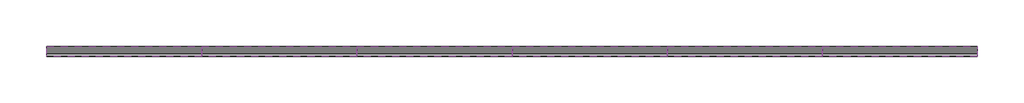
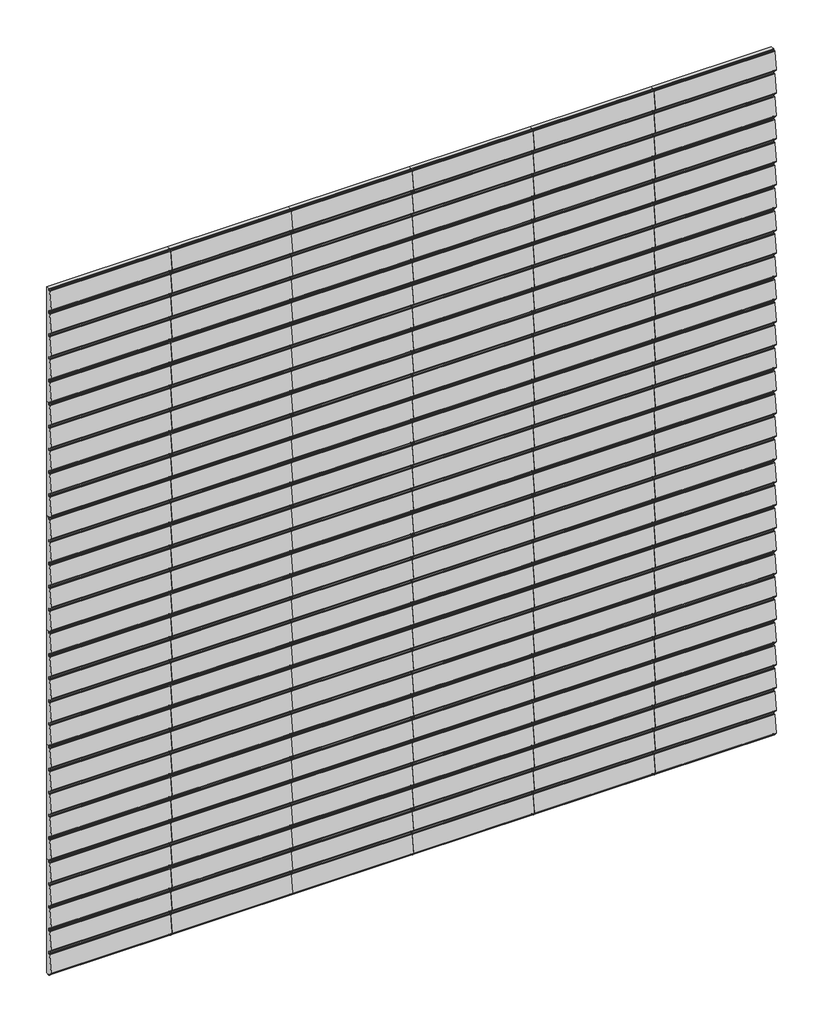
# One storey: 36 proxies.
"""IFC4 building model written with IfcOpenShell, lengths in millimetres."""

import ifcopenshell
import ifcopenshell.guid

model = None  # the IFC model being written
_history = None  # IfcOwnerHistory: only IFC2X3 demands one
_inside = {}  # id of a spatial element -> (the spatial element, [elements in it])
_under = {}  # id of a project, library or spatial element -> (it, [spatial elements below it])
_declared = {}  # id of a project -> (the project, [libraries it declares])
_typed = {}  # id of a type object -> (the type object, [elements of that type])
_made_of = {}  # id of a material, layer set ... -> (it, [elements and type objects made of it])


def new_model(schema):
    """Start an empty IFC model of exactly this schema.

    Asked for "IFC4X3", IfcOpenShell would pick the latest addendum, in which some entities
    have other attributes; the version numbers below select the first issue.
    IFC2X3 requires an IfcOwnerHistory on every rooted entity: one is made here for all.
    """
    global model, _history
    if schema == "IFC4X3":
        model = ifcopenshell.file(schema_version=(4, 3, 0, 0))
    else:
        model = ifcopenshell.file(schema=schema)
    _inside.clear()
    _under.clear()
    _declared.clear()
    _typed.clear()
    _made_of.clear()
    _history = None
    if model.schema == "IFC2X3":
        org = make("IfcOrganization", Name="unknown")
        user = make(
            "IfcPersonAndOrganization",
            ThePerson=make("IfcPerson", FamilyName="unknown"),
            TheOrganization=org,
        )
        app = make(
            "IfcApplication",
            ApplicationDeveloper=org,
            Version="unknown",
            ApplicationFullName="unknown",
            ApplicationIdentifier="unknown",
        )
        _history = make(
            "IfcOwnerHistory",
            OwningUser=user,
            OwningApplication=app,
            ChangeAction="ADDED",
            CreationDate=0,
        )
    return model


def make(cls, **values):
    """One entity of the class cls with the attributes given. An attribute that is None is left unset."""
    return model.create_entity(
        cls, **{name: value for name, value in values.items() if value is not None}
    )


def rooted(cls, **values):
    """An entity with a GlobalId (a new one), such as an element, a storey or a relation."""
    return make(cls, GlobalId=ifcopenshell.guid.new(), OwnerHistory=_history, **values)


def si_unit(unit_type, name, prefix=None):
    """IfcSIUnit, for example si_unit("LENGTHUNIT", "METRE", prefix="MILLI")."""
    return make("IfcSIUnit", UnitType=unit_type, Prefix=prefix, Name=name)


def assignment(units):
    """IfcUnitAssignment: the units of a project."""
    return None if units is None else make("IfcUnitAssignment", Units=units)


def point(xyz):
    """IfcCartesianPoint."""
    return None if xyz is None else make("IfcCartesianPoint", Coordinates=xyz)


def direction(xyz):
    """IfcDirection."""
    return None if xyz is None else make("IfcDirection", DirectionRatios=xyz)


def frame(location, z_axis=None, x_axis=None):
    """IfcAxis2Placement3D, a coordinate frame: its origin and axes. An axis left out is left unset."""
    return make(
        "IfcAxis2Placement3D",
        Location=point(location),
        Axis=direction(z_axis),
        RefDirection=direction(x_axis),
    )


def frame_2d(location, x_axis=None):
    """IfcAxis2Placement2D, a coordinate frame in the plane: its origin and x axis."""
    return make(
        "IfcAxis2Placement2D", Location=point(location), RefDirection=direction(x_axis)
    )


def origin():
    """The frame at (0, 0, 0) with its axes left unset."""
    return frame((0.0, 0.0, 0.0))


def place(relative_to, where):
    """IfcLocalPlacement: puts the frame where relative to a parent placement (None: the world)."""
    return make(
        "IfcLocalPlacement", PlacementRelTo=relative_to, RelativePlacement=where
    )


def context(
    kind, dimensions, precision=None, world=None, true_north=None, identifier=None
):
    """IfcGeometricRepresentationContext, for example the 3D "Model" context."""
    return make(
        "IfcGeometricRepresentationContext",
        ContextIdentifier=identifier,
        ContextType=kind,
        CoordinateSpaceDimension=dimensions,
        Precision=precision,
        WorldCoordinateSystem=world,
        TrueNorth=true_north,
    )


def project(units=None, contexts=None):
    """IfcProject with its units and contexts."""
    return rooted(
        "IfcProject",
        Name="project",
        RepresentationContexts=contexts,
        UnitsInContext=assignment(units),
    )


def spatial(cls, under=None, at=None, **own):
    """A site, building, storey or space (cls), placed at a placement, below another one or the project."""
    s = rooted(cls, ObjectPlacement=at, **own)
    if under is not None:
        _under.setdefault(under.id(), (under, []))[1].append(s)
    return s


def polyline(points):
    """IfcPolyline through the points."""
    return make("IfcPolyline", Points=[point(p) for p in points])


def circle_curve(where, radius):
    """IfcCircle in the frame where."""
    return make("IfcCircle", Position=where, Radius=radius)


def trimmed(basis, trim1, trim2, sense, master):
    """IfcTrimmedCurve: the piece of a basis curve between two trims."""
    return make(
        "IfcTrimmedCurve",
        BasisCurve=basis,
        Trim1=trim1,
        Trim2=trim2,
        SenseAgreement=sense,
        MasterRepresentation=master,
    )


def segment(curve, same_sense, transition):
    """IfcCompositeCurveSegment."""
    return make(
        "IfcCompositeCurveSegment",
        Transition=transition,
        SameSense=same_sense,
        ParentCurve=curve,
    )


def composite_curve(segments, self_intersect=None):
    """IfcCompositeCurve: segments joined end to end."""
    return make("IfcCompositeCurve", Segments=segments, SelfIntersect=self_intersect)


def outline(outer, holes=None, kind="AREA"):
    """IfcArbitraryClosedProfileDef: a profile drawn as a closed curve; with holes, ...WithVoids."""
    if holes is None:
        return make("IfcArbitraryClosedProfileDef", ProfileType=kind, OuterCurve=outer)
    return make(
        "IfcArbitraryProfileDefWithVoids",
        ProfileType=kind,
        OuterCurve=outer,
        InnerCurves=holes,
    )


def extrude(swept, where, along, depth):
    """IfcExtrudedAreaSolid: the profile swept, set in the frame where, extruded along a direction by depth."""
    return make(
        "IfcExtrudedAreaSolid",
        SweptArea=swept,
        Position=where,
        ExtrudedDirection=direction(along),
        Depth=depth,
    )


def shape(context_of_items, identifier, shape_type, items):
    """IfcShapeRepresentation: the items that make up one representation, for example the "Body"."""
    return make(
        "IfcShapeRepresentation",
        ContextOfItems=context_of_items,
        RepresentationIdentifier=identifier,
        RepresentationType=shape_type,
        Items=items,
    )


def source(mapping_origin, context_of_items, identifier, shape_type, items):
    """IfcRepresentationMap: a shape defined once, which mapped items show again and again."""
    return make(
        "IfcRepresentationMap",
        MappingOrigin=mapping_origin,
        MappedRepresentation=shape(context_of_items, identifier, shape_type, items),
    )


def transform(
    local_origin,
    x_axis=None,
    y_axis=None,
    z_axis=None,
    scale=None,
    scale2=None,
    scale3=None,
    uniform=True,
):
    """IfcCartesianTransformationOperator3D, or its non-uniform kind. x_axis, y_axis, z_axis: its Axis1, 2, 3."""
    if uniform:
        return make(
            "IfcCartesianTransformationOperator3D",
            Axis1=direction(x_axis),
            Axis2=direction(y_axis),
            LocalOrigin=point(local_origin),
            Scale=scale,
            Axis3=direction(z_axis),
        )
    return make(
        "IfcCartesianTransformationOperator3DnonUniform",
        Axis1=direction(x_axis),
        Axis2=direction(y_axis),
        LocalOrigin=point(local_origin),
        Scale=scale,
        Axis3=direction(z_axis),
        Scale2=scale2,
        Scale3=scale3,
    )


def mapped(mapping_source, mapping_target):
    """IfcMappedItem: shows the shape of a source again, moved by a transform."""
    return make(
        "IfcMappedItem", MappingSource=mapping_source, MappingTarget=mapping_target
    )


def made_of(thing, what):
    """Note that an element or type object is made of a material, layer set ...; save() writes the relation."""
    if what is not None:
        _made_of.setdefault(what.id(), (what, []))[1].append(thing)
    return thing


def element(
    cls,
    number,
    at=None,
    inside=None,
    cuts=None,
    type_object=None,
    material=None,
    context=None,
    identifier="Body",
    shape_type=None,
    held_by="IfcProductDefinitionShape",
    body=None,
    shapes=None,
    **own,
):
    """One element of the class cls, such as IfcWall. Its Tag is "e" and its number.

    at: its placement. inside: the storey or other place that contains it. cuts: it is an
    opening in that element (IfcRelVoidsElement). A single representation is given by context,
    identifier, shape_type and body (its items); several are given by shapes. held_by: the class
    of the entity that holds the representations. save() writes the other relations.
    """
    e = rooted(cls, Tag="e%d" % number, ObjectPlacement=at, **own)
    if body is not None:
        shapes = [shape(context, identifier, shape_type, body)]
    if shapes is not None:
        e.Representation = make(held_by, Representations=shapes)
    if inside is not None:
        _inside.setdefault(inside.id(), (inside, []))[1].append(e)
    if cuts is not None:
        rooted(
            "IfcRelVoidsElement", RelatingBuildingElement=cuts, RelatedOpeningElement=e
        )
    if type_object is not None:
        _typed.setdefault(type_object.id(), (type_object, []))[1].append(e)
    return made_of(e, material)


def aggregate(whole, parts):
    """IfcRelAggregates: a whole, such as a stair, and the parts it consists of."""
    return rooted("IfcRelAggregates", RelatingObject=whole, RelatedObjects=parts)


def save(model, path):
    """Write the relations noted so far, then the file.

    IfcRelAggregates (storeys below a building ...), IfcRelContainedInSpatialStructure (elements
    in a storey), IfcRelDefinesByType, IfcRelAssociatesMaterial and IfcRelDeclares: one each for
    every whole, place, type object, material and project.
    """
    for whole, parts in _under.values():
        aggregate(whole, parts)
    for where, things in _inside.values():
        rooted(
            "IfcRelContainedInSpatialStructure",
            RelatedElements=things,
            RelatingStructure=where,
        )
    for kind, things in _typed.values():
        rooted("IfcRelDefinesByType", RelatedObjects=things, RelatingType=kind)
    for what, things in _made_of.values():
        rooted("IfcRelAssociatesMaterial", RelatedObjects=things, RelatingMaterial=what)
    for by, libraries in _declared.values():
        rooted("IfcRelDeclares", RelatingContext=by, RelatedDefinitions=libraries)
    model.write(path)


def specialty_equipment_dc48855c(model_context):
    return source(origin(), model_context, "Body", "SweptSolid", [
        extrude(outline(composite_curve([segment(polyline([(0.0, -203.2), (0.0, 203.2), (12.5078125, 203.2)]), True, "CONTINUOUS"), segment(trimmed(circle_curve(frame_2d((12.5078125, 202.2078125)), 0.9921875), [point((12.5078125, 203.2))], [point((13.5, 202.2078125))], False, "CARTESIAN"), True, "CONTINUOUS"), segment(polyline([(13.5, 202.2078125), (13.5, 199.9465867)]), True, "CONTINUOUS"), segment(trimmed(circle_curve(frame_2d((14.4921875, 199.9465867)), 0.9921875), [point((13.5, 199.9465867))], [point((14.4921875, 198.9543992))], True, "CARTESIAN"), True, "CONTINUOUS"), segment(polyline([(14.4921875, 198.9543992), (17.1606187, 198.9543992)]), True, "CONTINUOUS"), segment(trimmed(circle_curve(frame_2d((17.1606187, 197.9749387)), 0.9794605), [point((17.1606187, 198.9543992))], [point((18.1109851, 198.2118916))], False, "CARTESIAN"), True, "CONTINUOUS"), segment(polyline([(18.1109851, 198.2118916), (26.76592, 136.6288293)]), True, "CONTINUOUS"), segment(trimmed(circle_curve(frame_2d((23.4253126, 136.1593376)), 3.3734375), [point((26.76592, 136.6288293))], [point((25.8106931, 133.773957))], False, "CARTESIAN"), True, "CONTINUOUS"), segment(polyline([(25.8106931, 133.773957), (18.5722569, 126.5355208)]), True, "CONTINUOUS"), segment(trimmed(circle_curve(frame_2d((17.6791911, 127.4285866)), 1.2629857), [point((18.5722569, 126.5355208))], [point((17.6791911, 126.1656008))], False, "CARTESIAN"), True, "CONTINUOUS"), segment(polyline([(17.6791911, 126.1656008), (14.4921875, 126.1656008)]), True, "CONTINUOUS"), segment(trimmed(circle_curve(frame_2d((14.4921875, 125.1734133)), 0.9921875), [point((14.4921875, 126.1656008))], [point((13.5, 125.1734133))], True, "CARTESIAN"), True, "CONTINUOUS"), segment(polyline([(13.5, 125.1734133), (13.5, 118.6665867)]), True, "CONTINUOUS"), segment(trimmed(circle_curve(frame_2d((14.4921875, 118.6665867)), 0.9921875), [point((13.5, 118.6665867))], [point((14.4921875, 117.6743992))], True, "CARTESIAN"), True, "CONTINUOUS"), segment(polyline([(14.4921875, 117.6743992), (17.1606187, 117.6743992)]), True, "CONTINUOUS"), segment(trimmed(circle_curve(frame_2d((17.1606187, 116.6949387)), 0.9794605), [point((17.1606187, 117.6743992))], [point((18.1109851, 116.9318916))], False, "CARTESIAN"), True, "CONTINUOUS"), segment(polyline([(18.1109851, 116.9318916), (26.76592, 55.3488293)]), True, "CONTINUOUS"), segment(trimmed(circle_curve(frame_2d((23.4253126, 54.8793376)), 3.3734375), [point((26.76592, 55.3488293))], [point((25.8106931, 52.493957))], False, "CARTESIAN"), True, "CONTINUOUS"), segment(polyline([(25.8106931, 52.493957), (18.5722569, 45.2555208)]), True, "CONTINUOUS"), segment(trimmed(circle_curve(frame_2d((17.6791911, 46.1485866)), 1.2629857), [point((18.5722569, 45.2555208))], [point((17.6791911, 44.8856008))], False, "CARTESIAN"), True, "CONTINUOUS"), segment(polyline([(17.6791911, 44.8856008), (14.4921875, 44.8856008)]), True, "CONTINUOUS"), segment(trimmed(circle_curve(frame_2d((14.4921875, 43.8934133)), 0.9921875), [point((14.4921875, 44.8856008))], [point((13.5, 43.8934133))], True, "CARTESIAN"), True, "CONTINUOUS"), segment(polyline([(13.5, 43.8934133), (13.5, 37.3865867)]), True, "CONTINUOUS"), segment(trimmed(circle_curve(frame_2d((14.4921875, 37.3865867)), 0.9921875), [point((13.5, 37.3865867))], [point((14.4921875, 36.3943992))], True, "CARTESIAN"), True, "CONTINUOUS"), segment(polyline([(14.4921875, 36.3943992), (17.1606187, 36.3943992)]), True, "CONTINUOUS"), segment(trimmed(circle_curve(frame_2d((17.1606187, 35.4149387)), 0.9794605), [point((17.1606187, 36.3943992))], [point((18.1109851, 35.6518916))], False, "CARTESIAN"), True, "CONTINUOUS"), segment(polyline([(18.1109851, 35.6518916), (26.76592, -25.9311707)]), True, "CONTINUOUS"), segment(trimmed(circle_curve(frame_2d((23.4253126, -26.4006624)), 3.3734375), [point((26.76592, -25.9311707))], [point((25.8106931, -28.786043))], False, "CARTESIAN"), True, "CONTINUOUS"), segment(polyline([(25.8106931, -28.786043), (18.5722569, -36.0244792)]), True, "CONTINUOUS"), segment(trimmed(circle_curve(frame_2d((17.6791911, -35.1314134)), 1.2629857), [point((18.5722569, -36.0244792))], [point((17.6791911, -36.3943992))], False, "CARTESIAN"), True, "CONTINUOUS"), segment(polyline([(17.6791911, -36.3943992), (14.4921875, -36.3943992)]), True, "CONTINUOUS"), segment(trimmed(circle_curve(frame_2d((14.4921875, -37.3865867)), 0.9921875), [point((14.4921875, -36.3943992))], [point((13.5, -37.3865867))], True, "CARTESIAN"), True, "CONTINUOUS"), segment(polyline([(13.5, -37.3865867), (13.5, -43.8934133)]), True, "CONTINUOUS"), segment(trimmed(circle_curve(frame_2d((14.4921875, -43.8934133)), 0.9921875), [point((13.5, -43.8934133))], [point((14.4921875, -44.8856008))], True, "CARTESIAN"), True, "CONTINUOUS"), segment(polyline([(14.4921875, -44.8856008), (17.1606187, -44.8856008)]), True, "CONTINUOUS"), segment(trimmed(circle_curve(frame_2d((17.1606187, -45.8650613)), 0.9794605), [point((17.1606187, -44.8856008))], [point((18.1109851, -45.6281084))], False, "CARTESIAN"), True, "CONTINUOUS"), segment(polyline([(18.1109851, -45.6281084), (26.76592, -107.2111707)]), True, "CONTINUOUS"), segment(trimmed(circle_curve(frame_2d((23.4253126, -107.6806624)), 3.3734375), [point((26.76592, -107.2111707))], [point((25.8106931, -110.066043))], False, "CARTESIAN"), True, "CONTINUOUS"), segment(polyline([(25.8106931, -110.066043), (18.5722569, -117.3044792)]), True, "CONTINUOUS"), segment(trimmed(circle_curve(frame_2d((17.6791911, -116.4114134)), 1.2629857), [point((18.5722569, -117.3044792))], [point((17.6791911, -117.6743992))], False, "CARTESIAN"), True, "CONTINUOUS"), segment(polyline([(17.6791911, -117.6743992), (14.4921875, -117.6743992)]), True, "CONTINUOUS"), segment(trimmed(circle_curve(frame_2d((14.4921875, -118.6665867)), 0.9921875), [point((14.4921875, -117.6743992))], [point((13.5, -118.6665867))], True, "CARTESIAN"), True, "CONTINUOUS"), segment(polyline([(13.5, -118.6665867), (13.5, -125.1734133)]), True, "CONTINUOUS"), segment(trimmed(circle_curve(frame_2d((14.4921875, -125.1734133)), 0.9921875), [point((13.5, -125.1734133))], [point((14.4921875, -126.1656008))], True, "CARTESIAN"), True, "CONTINUOUS"), segment(polyline([(14.4921875, -126.1656008), (17.1606187, -126.1656008)]), True, "CONTINUOUS"), segment(trimmed(circle_curve(frame_2d((17.1606187, -127.1450613)), 0.9794605), [point((17.1606187, -126.1656008))], [point((18.1109851, -126.9081084))], False, "CARTESIAN"), True, "CONTINUOUS"), segment(polyline([(18.1109851, -126.9081084), (26.76592, -188.4911707)]), True, "CONTINUOUS"), segment(trimmed(circle_curve(frame_2d((23.4253126, -188.9606624)), 3.3734375), [point((26.76592, -188.4911707))], [point((25.8106931, -191.346043))], False, "CARTESIAN"), True, "CONTINUOUS"), segment(polyline([(25.8106931, -191.346043), (18.5722569, -198.5844792)]), True, "CONTINUOUS"), segment(trimmed(circle_curve(frame_2d((17.6791911, -197.6914134)), 1.2629857), [point((18.5722569, -198.5844792))], [point((17.6791911, -198.9543992))], False, "CARTESIAN"), True, "CONTINUOUS"), segment(polyline([(17.6791911, -198.9543992), (14.4921875, -198.9543992)]), True, "CONTINUOUS"), segment(trimmed(circle_curve(frame_2d((14.4921875, -199.9465867)), 0.9921875), [point((14.4921875, -198.9543992))], [point((13.5, -199.9465867))], True, "CARTESIAN"), True, "CONTINUOUS"), segment(polyline([(13.5, -199.9465867), (13.5, -202.2078125)]), True, "CONTINUOUS"), segment(trimmed(circle_curve(frame_2d((12.5078125, -202.2078125)), 0.9921875), [point((13.5, -202.2078125))], [point((12.5078125, -203.2))], False, "CARTESIAN"), True, "CONTINUOUS"), segment(polyline([(12.5078125, -203.2), (0.0, -203.2)]), True, "CONTINUOUS")], self_intersect=False)), frame((0.0, -203.2, 0.0), z_axis=(0.0, 1.0, 0.0), x_axis=(0.0, 0.0, 1.0)), (0.0, 0.0, 1.0), 406.4),
    ])


model = new_model("IFC4")

# Units and contexts
model_context = context("Model", 3, world=origin())
ifc_project = project(units=[si_unit("LENGTHUNIT", "METRE", prefix="MILLI")], contexts=[model_context])

# Site, building, storey
site = spatial("IfcSite", under=ifc_project)
building = spatial("IfcBuilding", under=site)
storey = spatial("IfcBuildingStorey", under=building, Name="Nível 1", Elevation=0.0)

# Proxies
placement = place(None, origin())
specialty_equipment_shape = specialty_equipment_dc48855c(model_context)
element("IfcBuildingElementProxy", 1, Name="Spinneybeck_Porto 3 : Porto 3", ObjectType="Spinneybeck_Porto 3 : Porto 3", at=placement, inside=storey, context=model_context, shape_type="MappedRepresentation", body=[
    mapped(specialty_equipment_shape, transform((-8976.7950363, 552.5357437, 203.2), x_axis=(0.0, 0.0, 1.0), y_axis=(-1.0, 0.0, 0.0), z_axis=(0.0, -1.0, 0.0))),
])
element("IfcBuildingElementProxy", 2, Name="Spinneybeck_Porto 3 : Porto 3", ObjectType="Spinneybeck_Porto 3 : Porto 3", at=placement, inside=storey, context=model_context, shape_type="MappedRepresentation", body=[
    mapped(specialty_equipment_shape, transform((-8976.7950363, 552.5357437, 609.6), x_axis=(0.0, 0.0, 1.0), y_axis=(-1.0, 0.0, 0.0), z_axis=(0.0, -1.0, 0.0))),
])
element("IfcBuildingElementProxy", 3, Name="Spinneybeck_Porto 3 : Porto 3", ObjectType="Spinneybeck_Porto 3 : Porto 3", at=placement, inside=storey, context=model_context, shape_type="MappedRepresentation", body=[
    mapped(specialty_equipment_shape, transform((-8976.7950363, 552.5357437, 1016.0), x_axis=(0.0, 0.0, 1.0), y_axis=(-1.0, 0.0, 0.0), z_axis=(0.0, -1.0, 0.0))),
])
element("IfcBuildingElementProxy", 4, Name="Spinneybeck_Porto 3 : Porto 3", ObjectType="Spinneybeck_Porto 3 : Porto 3", at=placement, inside=storey, context=model_context, shape_type="MappedRepresentation", body=[
    mapped(specialty_equipment_shape, transform((-8976.7950363, 552.5357437, 1422.4), x_axis=(0.0, 0.0, 1.0), y_axis=(-1.0, 0.0, 0.0), z_axis=(0.0, -1.0, 0.0))),
])
element("IfcBuildingElementProxy", 5, Name="Spinneybeck_Porto 3 : Porto 3", ObjectType="Spinneybeck_Porto 3 : Porto 3", at=placement, inside=storey, context=model_context, shape_type="MappedRepresentation", body=[
    mapped(specialty_equipment_shape, transform((-8976.7950363, 552.5357437, 1828.8), x_axis=(0.0, 0.0, 1.0), y_axis=(-1.0, 0.0, 0.0), z_axis=(0.0, -1.0, 0.0))),
])
element("IfcBuildingElementProxy", 6, Name="Spinneybeck_Porto 3 : Porto 3", ObjectType="Spinneybeck_Porto 3 : Porto 3", at=placement, inside=storey, context=model_context, shape_type="MappedRepresentation", body=[
    mapped(specialty_equipment_shape, transform((-8976.7950363, 552.5357437, 2235.2), x_axis=(0.0, 0.0, 1.0), y_axis=(-1.0, 0.0, 0.0), z_axis=(0.0, -1.0, 0.0))),
])
element("IfcBuildingElementProxy", 7, Name="Spinneybeck_Porto 3 : Porto 3", ObjectType="Spinneybeck_Porto 3 : Porto 3", at=placement, inside=storey, context=model_context, shape_type="MappedRepresentation", body=[
    mapped(specialty_equipment_shape, transform((-8570.3950363, 552.5357437, 203.2), x_axis=(0.0, 0.0, 1.0), y_axis=(-1.0, 0.0, 0.0), z_axis=(0.0, -1.0, 0.0))),
])
element("IfcBuildingElementProxy", 8, Name="Spinneybeck_Porto 3 : Porto 3", ObjectType="Spinneybeck_Porto 3 : Porto 3", at=placement, inside=storey, context=model_context, shape_type="MappedRepresentation", body=[
    mapped(specialty_equipment_shape, transform((-8570.3950363, 552.5357437, 609.6), x_axis=(0.0, 0.0, 1.0), y_axis=(-1.0, 0.0, 0.0), z_axis=(0.0, -1.0, 0.0))),
])
element("IfcBuildingElementProxy", 9, Name="Spinneybeck_Porto 3 : Porto 3", ObjectType="Spinneybeck_Porto 3 : Porto 3", at=placement, inside=storey, context=model_context, shape_type="MappedRepresentation", body=[
    mapped(specialty_equipment_shape, transform((-8570.3950363, 552.5357437, 1016.0), x_axis=(0.0, 0.0, 1.0), y_axis=(-1.0, 0.0, 0.0), z_axis=(0.0, -1.0, 0.0))),
])
element("IfcBuildingElementProxy", 10, Name="Spinneybeck_Porto 3 : Porto 3", ObjectType="Spinneybeck_Porto 3 : Porto 3", at=placement, inside=storey, context=model_context, shape_type="MappedRepresentation", body=[
    mapped(specialty_equipment_shape, transform((-8570.3950363, 552.5357437, 1422.4), x_axis=(0.0, 0.0, 1.0), y_axis=(-1.0, 0.0, 0.0), z_axis=(0.0, -1.0, 0.0))),
])
element("IfcBuildingElementProxy", 11, Name="Spinneybeck_Porto 3 : Porto 3", ObjectType="Spinneybeck_Porto 3 : Porto 3", at=placement, inside=storey, context=model_context, shape_type="MappedRepresentation", body=[
    mapped(specialty_equipment_shape, transform((-8570.3950363, 552.5357437, 1828.8), x_axis=(0.0, 0.0, 1.0), y_axis=(-1.0, 0.0, 0.0), z_axis=(0.0, -1.0, 0.0))),
])
element("IfcBuildingElementProxy", 12, Name="Spinneybeck_Porto 3 : Porto 3", ObjectType="Spinneybeck_Porto 3 : Porto 3", at=placement, inside=storey, context=model_context, shape_type="MappedRepresentation", body=[
    mapped(specialty_equipment_shape, transform((-8570.3950363, 552.5357437, 2235.2), x_axis=(0.0, 0.0, 1.0), y_axis=(-1.0, 0.0, 0.0), z_axis=(0.0, -1.0, 0.0))),
])
element("IfcBuildingElementProxy", 13, Name="Spinneybeck_Porto 3 : Porto 3", ObjectType="Spinneybeck_Porto 3 : Porto 3", at=placement, inside=storey, context=model_context, shape_type="MappedRepresentation", body=[
    mapped(specialty_equipment_shape, transform((-8163.9950363, 552.5357437, 203.2), x_axis=(0.0, 0.0, 1.0), y_axis=(-1.0, 0.0, 0.0), z_axis=(0.0, -1.0, 0.0))),
])
element("IfcBuildingElementProxy", 14, Name="Spinneybeck_Porto 3 : Porto 3", ObjectType="Spinneybeck_Porto 3 : Porto 3", at=placement, inside=storey, context=model_context, shape_type="MappedRepresentation", body=[
    mapped(specialty_equipment_shape, transform((-8163.9950363, 552.5357437, 609.6), x_axis=(0.0, 0.0, 1.0), y_axis=(-1.0, 0.0, 0.0), z_axis=(0.0, -1.0, 0.0))),
])
element("IfcBuildingElementProxy", 15, Name="Spinneybeck_Porto 3 : Porto 3", ObjectType="Spinneybeck_Porto 3 : Porto 3", at=placement, inside=storey, context=model_context, shape_type="MappedRepresentation", body=[
    mapped(specialty_equipment_shape, transform((-8163.9950363, 552.5357437, 1016.0), x_axis=(0.0, 0.0, 1.0), y_axis=(-1.0, 0.0, 0.0), z_axis=(0.0, -1.0, 0.0))),
])
element("IfcBuildingElementProxy", 16, Name="Spinneybeck_Porto 3 : Porto 3", ObjectType="Spinneybeck_Porto 3 : Porto 3", at=placement, inside=storey, context=model_context, shape_type="MappedRepresentation", body=[
    mapped(specialty_equipment_shape, transform((-8163.9950363, 552.5357437, 1422.4), x_axis=(0.0, 0.0, 1.0), y_axis=(-1.0, 0.0, 0.0), z_axis=(0.0, -1.0, 0.0))),
])
element("IfcBuildingElementProxy", 17, Name="Spinneybeck_Porto 3 : Porto 3", ObjectType="Spinneybeck_Porto 3 : Porto 3", at=placement, inside=storey, context=model_context, shape_type="MappedRepresentation", body=[
    mapped(specialty_equipment_shape, transform((-8163.9950363, 552.5357437, 1828.8), x_axis=(0.0, 0.0, 1.0), y_axis=(-1.0, 0.0, 0.0), z_axis=(0.0, -1.0, 0.0))),
])
element("IfcBuildingElementProxy", 18, Name="Spinneybeck_Porto 3 : Porto 3", ObjectType="Spinneybeck_Porto 3 : Porto 3", at=placement, inside=storey, context=model_context, shape_type="MappedRepresentation", body=[
    mapped(specialty_equipment_shape, transform((-8163.9950363, 552.5357437, 2235.2), x_axis=(0.0, 0.0, 1.0), y_axis=(-1.0, 0.0, 0.0), z_axis=(0.0, -1.0, 0.0))),
])
element("IfcBuildingElementProxy", 19, Name="Spinneybeck_Porto 3 : Porto 3", ObjectType="Spinneybeck_Porto 3 : Porto 3", at=placement, inside=storey, context=model_context, shape_type="MappedRepresentation", body=[
    mapped(specialty_equipment_shape, transform((-7757.5950363, 552.5357437, 203.2), x_axis=(0.0, 0.0, 1.0), y_axis=(-1.0, 0.0, 0.0), z_axis=(0.0, -1.0, 0.0))),
])
element("IfcBuildingElementProxy", 20, Name="Spinneybeck_Porto 3 : Porto 3", ObjectType="Spinneybeck_Porto 3 : Porto 3", at=placement, inside=storey, context=model_context, shape_type="MappedRepresentation", body=[
    mapped(specialty_equipment_shape, transform((-7757.5950363, 552.5357437, 609.6), x_axis=(0.0, 0.0, 1.0), y_axis=(-1.0, 0.0, 0.0), z_axis=(0.0, -1.0, 0.0))),
])
element("IfcBuildingElementProxy", 21, Name="Spinneybeck_Porto 3 : Porto 3", ObjectType="Spinneybeck_Porto 3 : Porto 3", at=placement, inside=storey, context=model_context, shape_type="MappedRepresentation", body=[
    mapped(specialty_equipment_shape, transform((-7757.5950363, 552.5357437, 1016.0), x_axis=(0.0, 0.0, 1.0), y_axis=(-1.0, 0.0, 0.0), z_axis=(0.0, -1.0, 0.0))),
])
element("IfcBuildingElementProxy", 22, Name="Spinneybeck_Porto 3 : Porto 3", ObjectType="Spinneybeck_Porto 3 : Porto 3", at=placement, inside=storey, context=model_context, shape_type="MappedRepresentation", body=[
    mapped(specialty_equipment_shape, transform((-7757.5950363, 552.5357437, 1422.4), x_axis=(0.0, 0.0, 1.0), y_axis=(-1.0, 0.0, 0.0), z_axis=(0.0, -1.0, 0.0))),
])
element("IfcBuildingElementProxy", 23, Name="Spinneybeck_Porto 3 : Porto 3", ObjectType="Spinneybeck_Porto 3 : Porto 3", at=placement, inside=storey, context=model_context, shape_type="MappedRepresentation", body=[
    mapped(specialty_equipment_shape, transform((-7757.5950363, 552.5357437, 1828.8), x_axis=(0.0, 0.0, 1.0), y_axis=(-1.0, 0.0, 0.0), z_axis=(0.0, -1.0, 0.0))),
])
element("IfcBuildingElementProxy", 24, Name="Spinneybeck_Porto 3 : Porto 3", ObjectType="Spinneybeck_Porto 3 : Porto 3", at=placement, inside=storey, context=model_context, shape_type="MappedRepresentation", body=[
    mapped(specialty_equipment_shape, transform((-7757.5950363, 552.5357437, 2235.2), x_axis=(0.0, 0.0, 1.0), y_axis=(-1.0, 0.0, 0.0), z_axis=(0.0, -1.0, 0.0))),
])
element("IfcBuildingElementProxy", 25, Name="Spinneybeck_Porto 3 : Porto 3", ObjectType="Spinneybeck_Porto 3 : Porto 3", at=placement, inside=storey, context=model_context, shape_type="MappedRepresentation", body=[
    mapped(specialty_equipment_shape, transform((-7351.1950363, 552.5357437, 203.2), x_axis=(0.0, 0.0, 1.0), y_axis=(-1.0, 0.0, 0.0), z_axis=(0.0, -1.0, 0.0))),
])
element("IfcBuildingElementProxy", 26, Name="Spinneybeck_Porto 3 : Porto 3", ObjectType="Spinneybeck_Porto 3 : Porto 3", at=placement, inside=storey, context=model_context, shape_type="MappedRepresentation", body=[
    mapped(specialty_equipment_shape, transform((-7351.1950363, 552.5357437, 609.6), x_axis=(0.0, 0.0, 1.0), y_axis=(-1.0, 0.0, 0.0), z_axis=(0.0, -1.0, 0.0))),
])
element("IfcBuildingElementProxy", 27, Name="Spinneybeck_Porto 3 : Porto 3", ObjectType="Spinneybeck_Porto 3 : Porto 3", at=placement, inside=storey, context=model_context, shape_type="MappedRepresentation", body=[
    mapped(specialty_equipment_shape, transform((-7351.1950363, 552.5357437, 1016.0), x_axis=(0.0, 0.0, 1.0), y_axis=(-1.0, 0.0, 0.0), z_axis=(0.0, -1.0, 0.0))),
])
element("IfcBuildingElementProxy", 28, Name="Spinneybeck_Porto 3 : Porto 3", ObjectType="Spinneybeck_Porto 3 : Porto 3", at=placement, inside=storey, context=model_context, shape_type="MappedRepresentation", body=[
    mapped(specialty_equipment_shape, transform((-7351.1950363, 552.5357437, 1422.4), x_axis=(0.0, 0.0, 1.0), y_axis=(-1.0, 0.0, 0.0), z_axis=(0.0, -1.0, 0.0))),
])
element("IfcBuildingElementProxy", 29, Name="Spinneybeck_Porto 3 : Porto 3", ObjectType="Spinneybeck_Porto 3 : Porto 3", at=placement, inside=storey, context=model_context, shape_type="MappedRepresentation", body=[
    mapped(specialty_equipment_shape, transform((-7351.1950363, 552.5357437, 1828.8), x_axis=(0.0, 0.0, 1.0), y_axis=(-1.0, 0.0, 0.0), z_axis=(0.0, -1.0, 0.0))),
])
element("IfcBuildingElementProxy", 30, Name="Spinneybeck_Porto 3 : Porto 3", ObjectType="Spinneybeck_Porto 3 : Porto 3", at=placement, inside=storey, context=model_context, shape_type="MappedRepresentation", body=[
    mapped(specialty_equipment_shape, transform((-7351.1950363, 552.5357437, 2235.2), x_axis=(0.0, 0.0, 1.0), y_axis=(-1.0, 0.0, 0.0), z_axis=(0.0, -1.0, 0.0))),
])
element("IfcBuildingElementProxy", 31, Name="Spinneybeck_Porto 3 : Porto 3", ObjectType="Spinneybeck_Porto 3 : Porto 3", at=placement, inside=storey, context=model_context, shape_type="MappedRepresentation", body=[
    mapped(specialty_equipment_shape, transform((-6944.7950363, 552.5357437, 203.2), x_axis=(0.0, 0.0, 1.0), y_axis=(-1.0, 0.0, 0.0), z_axis=(0.0, -1.0, 0.0))),
])
element("IfcBuildingElementProxy", 32, Name="Spinneybeck_Porto 3 : Porto 3", ObjectType="Spinneybeck_Porto 3 : Porto 3", at=placement, inside=storey, context=model_context, shape_type="MappedRepresentation", body=[
    mapped(specialty_equipment_shape, transform((-6944.7950363, 552.5357437, 609.6), x_axis=(0.0, 0.0, 1.0), y_axis=(-1.0, 0.0, 0.0), z_axis=(0.0, -1.0, 0.0))),
])
element("IfcBuildingElementProxy", 33, Name="Spinneybeck_Porto 3 : Porto 3", ObjectType="Spinneybeck_Porto 3 : Porto 3", at=placement, inside=storey, context=model_context, shape_type="MappedRepresentation", body=[
    mapped(specialty_equipment_shape, transform((-6944.7950363, 552.5357437, 1016.0), x_axis=(0.0, 0.0, 1.0), y_axis=(-1.0, 0.0, 0.0), z_axis=(0.0, -1.0, 0.0))),
])
element("IfcBuildingElementProxy", 34, Name="Spinneybeck_Porto 3 : Porto 3", ObjectType="Spinneybeck_Porto 3 : Porto 3", at=placement, inside=storey, context=model_context, shape_type="MappedRepresentation", body=[
    mapped(specialty_equipment_shape, transform((-6944.7950363, 552.5357437, 1422.4), x_axis=(0.0, 0.0, 1.0), y_axis=(-1.0, 0.0, 0.0), z_axis=(0.0, -1.0, 0.0))),
])
element("IfcBuildingElementProxy", 35, Name="Spinneybeck_Porto 3 : Porto 3", ObjectType="Spinneybeck_Porto 3 : Porto 3", at=placement, inside=storey, context=model_context, shape_type="MappedRepresentation", body=[
    mapped(specialty_equipment_shape, transform((-6944.7950363, 552.5357437, 1828.8), x_axis=(0.0, 0.0, 1.0), y_axis=(-1.0, 0.0, 0.0), z_axis=(0.0, -1.0, 0.0))),
])
element("IfcBuildingElementProxy", 36, Name="Spinneybeck_Porto 3 : Porto 3", ObjectType="Spinneybeck_Porto 3 : Porto 3", at=placement, inside=storey, context=model_context, shape_type="MappedRepresentation", body=[
    mapped(specialty_equipment_shape, transform((-6944.7950363, 552.5357437, 2235.2), x_axis=(0.0, 0.0, 1.0), y_axis=(-1.0, 0.0, 0.0), z_axis=(0.0, -1.0, 0.0))),
])

save(model, "model.ifc")
